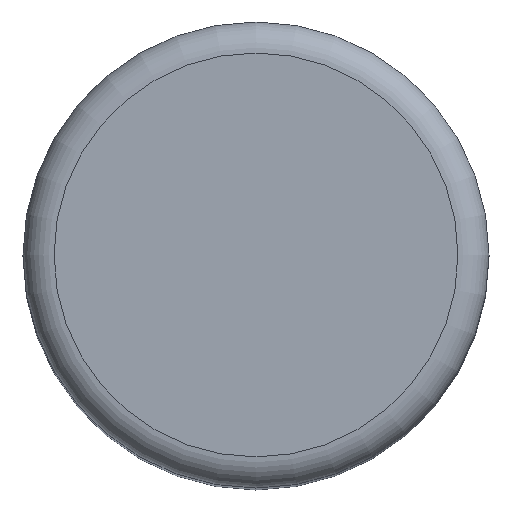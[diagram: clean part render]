
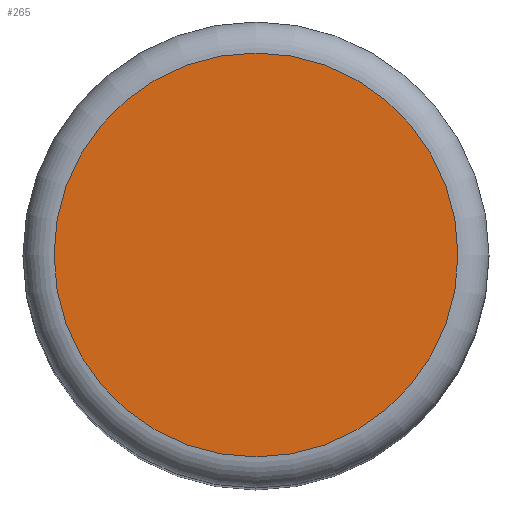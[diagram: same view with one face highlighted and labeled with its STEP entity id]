
A CAD part, top view. The second image highlights one B-rep face of the part: STEP entity #265.
In plain terms, the highlighted planar face has unit normal (0, 0, 1).
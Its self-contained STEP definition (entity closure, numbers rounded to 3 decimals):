
#84 = TOROIDAL_SURFACE('',#85,5.2,0.8);
#85 = AXIS2_PLACEMENT_3D('',#86,#87,#88);
#86 = CARTESIAN_POINT('',(0.,0.,29.2));
#87 = DIRECTION('',(0.,0.,1.));
#88 = DIRECTION('',(1.,0.,-0.));
#181 = VERTEX_POINT('',#182);
#182 = CARTESIAN_POINT('',(5.2,0.,30.));
#204 = EDGE_CURVE('',#181,#181,#205,.T.);
#205 = SURFACE_CURVE('',#206,(#211,#218),.PCURVE_S1.);
#206 = CIRCLE('',#207,5.2);
#207 = AXIS2_PLACEMENT_3D('',#208,#209,#210);
#208 = CARTESIAN_POINT('',(0.,0.,30.));
#209 = DIRECTION('',(0.,0.,1.));
#210 = DIRECTION('',(1.,0.,-0.));
#211 = PCURVE('',#84,#212);
#212 = DEFINITIONAL_REPRESENTATION('',(#213),#217);
#213 = LINE('',#214,#215);
#214 = CARTESIAN_POINT('',(0.,1.571));
#215 = VECTOR('',#216,1.);
#216 = DIRECTION('',(1.,0.));
#217 = ( GEOMETRIC_REPRESENTATION_CONTEXT(2) 
PARAMETRIC_REPRESENTATION_CONTEXT() REPRESENTATION_CONTEXT('2D SPACE',''
  ) );
#218 = PCURVE('',#219,#224);
#219 = PLANE('',#220);
#220 = AXIS2_PLACEMENT_3D('',#221,#222,#223);
#221 = CARTESIAN_POINT('',(0.,0.,30.));
#222 = DIRECTION('',(0.,0.,1.));
#223 = DIRECTION('',(1.,0.,-0.));
#224 = DEFINITIONAL_REPRESENTATION('',(#225),#229);
#225 = CIRCLE('',#226,5.2);
#226 = AXIS2_PLACEMENT_2D('',#227,#228);
#227 = CARTESIAN_POINT('',(0.,0.));
#228 = DIRECTION('',(1.,0.));
#229 = ( GEOMETRIC_REPRESENTATION_CONTEXT(2) 
PARAMETRIC_REPRESENTATION_CONTEXT() REPRESENTATION_CONTEXT('2D SPACE',''
  ) );
#265 = ADVANCED_FACE('',(#266),#219,.T.);
#266 = FACE_BOUND('',#267,.T.);
#267 = EDGE_LOOP('',(#268));
#268 = ORIENTED_EDGE('',*,*,#204,.T.);
